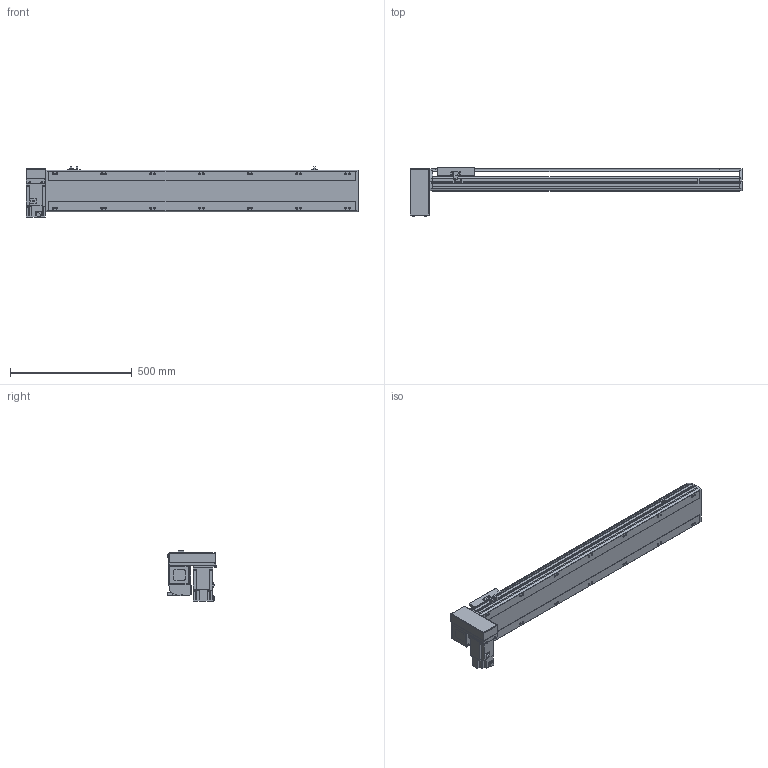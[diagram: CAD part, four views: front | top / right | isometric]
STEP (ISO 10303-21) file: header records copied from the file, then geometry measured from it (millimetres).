
FILE_DESCRIPTION(/* description */ ('STEP AP214'),/* implementation_level */ '2;1');
FILE_NAME(/* name */ 'PBS170-P40-S1000-RD-T75-C1-N(0)',/* time_stamp */ '2022-06-08T07:35:15+02:00',/* author */ ('License CC BY-ND 4.0'),/* organization */ ('CADENAS'),/* preprocessor_version */ 'ST-DEVELOPER v18.102',/* originating_system */ 'PARTsolutions',/* authorisation */ ' ');
FILE_SCHEMA (('AUTOMOTIVE_DESIGN {1 0 10303 214 3 1 1}'));
Length unit declared in the file: millimetre
Products named in the file (7): PBS170-P40-S1000-RD-T75-C1-N(0); PBS170_sensor; PBS170_plant; PBS170_sliser; T75-p1; PBS170T-RD_motors; PBS170-S1000()_body
Assembly tree (8 placements, depth 2):
  PBS170-P40-S1000-RD-T75-C1-N(0)
    PBS170_sensor  x3
    PBS170_plant
    PBS170_sliser
    T75-p1
    PBS170T-RD_motors
    PBS170-S1000()_body
Bounding box: 1363 x 201 x 205.3 mm (x, y, z)
Volume: 10992665.2 mm3; surface area: 1439294.7 mm2
Topology: 8 solids, 8 shells, 1066 faces, 2835 edges, 1848 vertices
Faces by surface type: plane 681, cylinder 331, cone 44, sphere 8, torus 2
Full cylindrical faces by diameter (mm): 3.242 x4, 4 x2, 4.4 x4, 4.5 x6, 4.917 x4, 6 x9, 6.647 x22, 7 x2, 7.5 x4, 8 x8, 8.5 x14, 10 x4, 10.5 x14, 11 x2, 30 x2, 40 x1, 70 x1
Entity records: 30660 total; most frequent: CARTESIAN_POINT 5601, DIRECTION 5230, ORIENTED_EDGE 4968, EDGE_CURVE 2484, AXIS2_PLACEMENT_3D 1807, VERTEX_POINT 1706, LINE 1616, VECTOR 1616
